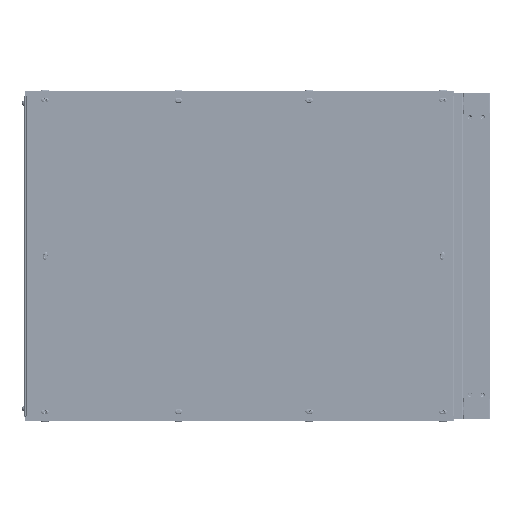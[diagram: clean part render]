
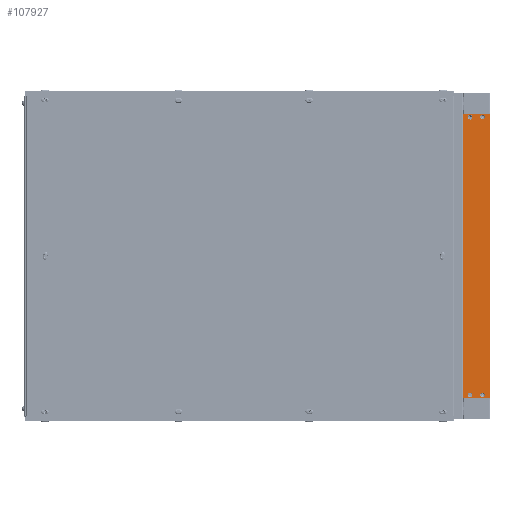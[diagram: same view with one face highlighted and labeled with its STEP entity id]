
A CAD part, left-side view. The second image highlights one B-rep face of the part: STEP entity #107927.
In plain terms, the highlighted planar face has unit normal (-1, 0, 0) as drawn and (0, -1, 0) by its records, which use the part's own axes.
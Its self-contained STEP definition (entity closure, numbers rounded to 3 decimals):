
#6124 = CARTESIAN_POINT ( 'NONE',  ( 11.025, 0., -33.496 ) ) ;
#7145 = EDGE_CURVE ( 'NONE', #307516, #81299, #535023, .T. ) ;
#8688 = VERTEX_POINT ( 'NONE', #572758 ) ;
#17581 = ORIENTED_EDGE ( 'NONE', *, *, #306683, .F. ) ;
#20618 = CARTESIAN_POINT ( 'NONE',  ( 11.025, 0., -25.25 ) ) ;
#29273 = CARTESIAN_POINT ( 'NONE',  ( 1041.04, 0., 0. ) ) ;
#34661 = FACE_BOUND ( 'NONE', #646575, .T. ) ;
#42724 = DIRECTION ( 'NONE',  ( 0., 0., -1. ) ) ;
#42753 = DIRECTION ( 'NONE',  ( 0., -1., 0. ) ) ;
#63846 = DIRECTION ( 'NONE',  ( 0., 0., 1. ) ) ;
#67120 = AXIS2_PLACEMENT_3D ( 'NONE', #542458, #230119, #727460 ) ;
#67464 = CARTESIAN_POINT ( 'NONE',  ( 1030.015, 0., -17.004 ) ) ;
#80585 = LINE ( 'NONE', #409193, #234201 ) ;
#81299 = VERTEX_POINT ( 'NONE', #694302 ) ;
#100339 = FACE_BOUND ( 'NONE', #285242, .T. ) ;
#103783 = ORIENTED_EDGE ( 'NONE', *, *, #7145, .F. ) ;
#107927 = ADVANCED_FACE ( 'NONE', ( #782611, #100339, #153870, #597655, #34661 ), #601714, .T. ) ;
#109714 = LINE ( 'NONE', #405875, #545106 ) ;
#129546 = CARTESIAN_POINT ( 'NONE',  ( 0., 0., 0. ) ) ;
#153870 = FACE_OUTER_BOUND ( 'NONE', #327307, .T. ) ;
#173584 = CARTESIAN_POINT ( 'NONE',  ( 11.025, 0., -62.507 ) ) ;
#210419 = VERTEX_POINT ( 'NONE', #6124 ) ;
#224940 = EDGE_CURVE ( 'NONE', #81299, #307516, #659799, .T. ) ;
#226282 = DIRECTION ( 'NONE',  ( 0., -1., 0. ) ) ;
#230119 = DIRECTION ( 'NONE',  ( 0., -1., 0. ) ) ;
#230940 = ORIENTED_EDGE ( 'NONE', *, *, #546306, .F. ) ;
#234201 = VECTOR ( 'NONE', #392938, 1000. ) ;
#240093 = CARTESIAN_POINT ( 'NONE',  ( 1030.015, 0., -71.25 ) ) ;
#260146 = CARTESIAN_POINT ( 'NONE',  ( 1041.04, 0., 0. ) ) ;
#272171 = AXIS2_PLACEMENT_3D ( 'NONE', #240093, #733466, #437245 ) ;
#274277 = VERTEX_POINT ( 'NONE', #663892 ) ;
#278455 = CARTESIAN_POINT ( 'NONE',  ( 1030.015, 0., -25.25 ) ) ;
#285242 = EDGE_LOOP ( 'NONE', ( #684373, #509006 ) ) ;
#285304 = DIRECTION ( 'NONE',  ( 0., -1., 0. ) ) ;
#289326 = DIRECTION ( 'NONE',  ( 0., -1., 0. ) ) ;
#301232 = VERTEX_POINT ( 'NONE', #29273 ) ;
#305309 = CIRCLE ( 'NONE', #606943, 8.246 ) ;
#306683 = EDGE_CURVE ( 'NONE', #422627, #516811, #376243, .T. ) ;
#307516 = VERTEX_POINT ( 'NONE', #336956 ) ;
#317375 = ORIENTED_EDGE ( 'NONE', *, *, #464810, .F. ) ;
#321511 = AXIS2_PLACEMENT_3D ( 'NONE', #278455, #701965, #640239 ) ;
#327307 = EDGE_LOOP ( 'NONE', ( #17581, #398085, #560537, #580609 ) ) ;
#336956 = CARTESIAN_POINT ( 'NONE',  ( 1030.015, 0., -62.507 ) ) ;
#337630 = VERTEX_POINT ( 'NONE', #67464 ) ;
#346570 = CIRCLE ( 'NONE', #412283, 8.246 ) ;
#357072 = EDGE_CURVE ( 'NONE', #390071, #210419, #346570, .T. ) ;
#364458 = EDGE_LOOP ( 'NONE', ( #103783, #755751 ) ) ;
#374180 = EDGE_CURVE ( 'NONE', #337630, #274277, #452968, .T. ) ;
#374208 = EDGE_CURVE ( 'NONE', #516811, #301232, #109714, .T. ) ;
#376243 = LINE ( 'NONE', #129546, #560604 ) ;
#379405 = DIRECTION ( 'NONE',  ( 0., -1., 0. ) ) ;
#380919 = CIRCLE ( 'NONE', #457737, 8.743 ) ;
#384375 = CARTESIAN_POINT ( 'NONE',  ( 0., 0., 0. ) ) ;
#390071 = VERTEX_POINT ( 'NONE', #525543 ) ;
#392938 = DIRECTION ( 'NONE',  ( -1., 0., 0. ) ) ;
#394939 = CARTESIAN_POINT ( 'NONE',  ( 0., 0., -96.5 ) ) ;
#398085 = ORIENTED_EDGE ( 'NONE', *, *, #657612, .F. ) ;
#404606 = CARTESIAN_POINT ( 'NONE',  ( 0., 0., -96.5 ) ) ;
#405875 = CARTESIAN_POINT ( 'NONE',  ( 0., 0., 0. ) ) ;
#409193 = CARTESIAN_POINT ( 'NONE',  ( 0., 0., -96.5 ) ) ;
#411179 = CIRCLE ( 'NONE', #476803, 8.743 ) ;
#412283 = AXIS2_PLACEMENT_3D ( 'NONE', #794766, #42753, #597621 ) ;
#414986 = DIRECTION ( 'NONE',  ( 0., -1., 0. ) ) ;
#422627 = VERTEX_POINT ( 'NONE', #394939 ) ;
#427912 = VECTOR ( 'NONE', #765626, 1000. ) ;
#434459 = CIRCLE ( 'NONE', #67120, 8.246 ) ;
#437245 = DIRECTION ( 'NONE',  ( 0., 0., 1. ) ) ;
#438955 = ORIENTED_EDGE ( 'NONE', *, *, #357072, .F. ) ;
#452968 = CIRCLE ( 'NONE', #321511, 8.246 ) ;
#457737 = AXIS2_PLACEMENT_3D ( 'NONE', #794741, #289326, #42724 ) ;
#464387 = DIRECTION ( 'NONE',  ( 0., 0., -1. ) ) ;
#464810 = EDGE_CURVE ( 'NONE', #613678, #8688, #411179, .T. ) ;
#476803 = AXIS2_PLACEMENT_3D ( 'NONE', #757407, #379405, #679576 ) ;
#488687 = EDGE_CURVE ( 'NONE', #274277, #337630, #434459, .T. ) ;
#490407 = EDGE_CURVE ( 'NONE', #210419, #390071, #305309, .T. ) ;
#509006 = ORIENTED_EDGE ( 'NONE', *, *, #488687, .F. ) ;
#516811 = VERTEX_POINT ( 'NONE', #384375 ) ;
#525543 = CARTESIAN_POINT ( 'NONE',  ( 11.025, 0., -17.004 ) ) ;
#528353 = AXIS2_PLACEMENT_3D ( 'NONE', #534562, #226282, #781202 ) ;
#534562 = CARTESIAN_POINT ( 'NONE',  ( 1030.015, 0., -71.25 ) ) ;
#535023 = CIRCLE ( 'NONE', #272171, 8.743 ) ;
#535958 = DIRECTION ( 'NONE',  ( 0., 0., -1. ) ) ;
#542458 = CARTESIAN_POINT ( 'NONE',  ( 1030.015, 0., -25.25 ) ) ;
#545106 = VECTOR ( 'NONE', #800078, 1000. ) ;
#546306 = EDGE_CURVE ( 'NONE', #8688, #613678, #380919, .T. ) ;
#560219 = AXIS2_PLACEMENT_3D ( 'NONE', #404606, #285304, #535958 ) ;
#560537 = ORIENTED_EDGE ( 'NONE', *, *, #779287, .F. ) ;
#560604 = VECTOR ( 'NONE', #63846, 1000. ) ;
#572758 = CARTESIAN_POINT ( 'NONE',  ( 11.025, 0., -79.993 ) ) ;
#580093 = VERTEX_POINT ( 'NONE', #600067 ) ;
#580609 = ORIENTED_EDGE ( 'NONE', *, *, #374208, .F. ) ;
#597621 = DIRECTION ( 'NONE',  ( 0., 0., -1. ) ) ;
#597655 = FACE_BOUND ( 'NONE', #664444, .T. ) ;
#600067 = CARTESIAN_POINT ( 'NONE',  ( 1041.04, 0., -96.5 ) ) ;
#601714 = PLANE ( 'NONE',  #560219 ) ;
#606943 = AXIS2_PLACEMENT_3D ( 'NONE', #20618, #414986, #464387 ) ;
#613678 = VERTEX_POINT ( 'NONE', #173584 ) ;
#640239 = DIRECTION ( 'NONE',  ( 0., 0., 1. ) ) ;
#646575 = EDGE_LOOP ( 'NONE', ( #230940, #317375 ) ) ;
#657612 = EDGE_CURVE ( 'NONE', #580093, #422627, #80585, .T. ) ;
#659799 = CIRCLE ( 'NONE', #528353, 8.743 ) ;
#663724 = ORIENTED_EDGE ( 'NONE', *, *, #490407, .F. ) ;
#663892 = CARTESIAN_POINT ( 'NONE',  ( 1030.015, 0., -33.496 ) ) ;
#664444 = EDGE_LOOP ( 'NONE', ( #663724, #438955 ) ) ;
#679576 = DIRECTION ( 'NONE',  ( 0., 0., -1. ) ) ;
#684373 = ORIENTED_EDGE ( 'NONE', *, *, #374180, .F. ) ;
#691809 = LINE ( 'NONE', #260146, #427912 ) ;
#694302 = CARTESIAN_POINT ( 'NONE',  ( 1030.015, 0., -79.993 ) ) ;
#701965 = DIRECTION ( 'NONE',  ( 0., -1., 0. ) ) ;
#727460 = DIRECTION ( 'NONE',  ( 0., 0., 1. ) ) ;
#733466 = DIRECTION ( 'NONE',  ( 0., -1., 0. ) ) ;
#755751 = ORIENTED_EDGE ( 'NONE', *, *, #224940, .F. ) ;
#757407 = CARTESIAN_POINT ( 'NONE',  ( 11.025, 0., -71.25 ) ) ;
#765626 = DIRECTION ( 'NONE',  ( 0., 0., -1. ) ) ;
#779287 = EDGE_CURVE ( 'NONE', #301232, #580093, #691809, .T. ) ;
#781202 = DIRECTION ( 'NONE',  ( 0., 0., 1. ) ) ;
#782611 = FACE_BOUND ( 'NONE', #364458, .T. ) ;
#794741 = CARTESIAN_POINT ( 'NONE',  ( 11.025, 0., -71.25 ) ) ;
#794766 = CARTESIAN_POINT ( 'NONE',  ( 11.025, 0., -25.25 ) ) ;
#800078 = DIRECTION ( 'NONE',  ( 1., 0., 0. ) ) ;
